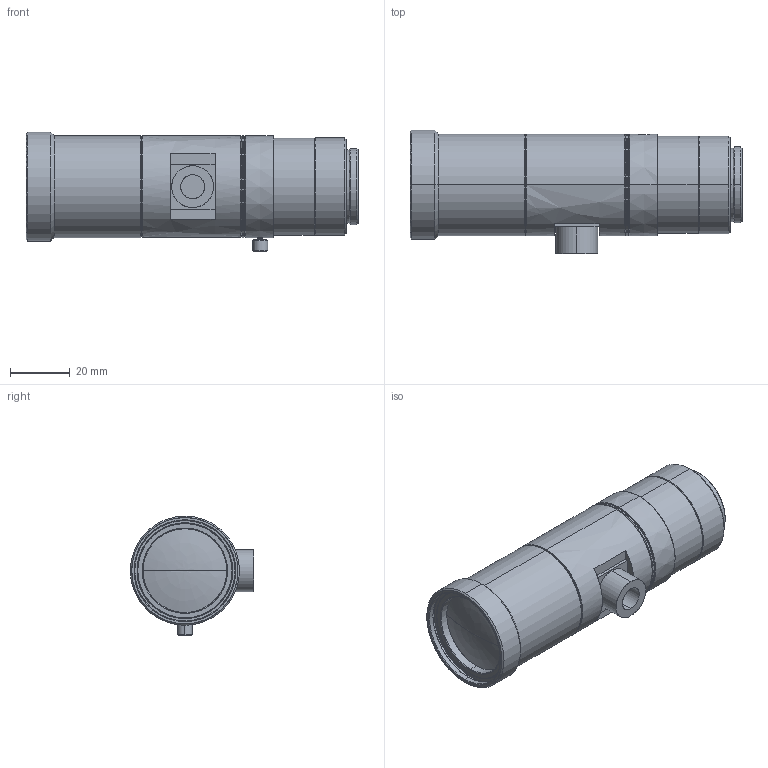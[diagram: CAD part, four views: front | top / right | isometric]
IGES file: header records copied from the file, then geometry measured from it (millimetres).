
Start section: SolidWorks IGES file using analytic representation for surfaces
Global section: file name: C:\Users\tsuji_vst\Documents\【図面】\_3D\00 VST\VS-TCT\TCT10-65\VS-TCT1-65CO_S.IGS; native system: SolidWorks 2016; preprocessor: SolidWorks 2016; author: tsuji_vst; date: 160830.161229; units: millimetre
Bounding box: 110.97 x 41.25 x 40.05 mm (x, y, z)
Surface area: 17411.5 mm2 (no closed solid volume)
Topology: 0 solids, 0 shells, 141 faces, 2458 edges, 2457 vertices
Faces by surface type: revolution 112, bspline 29
